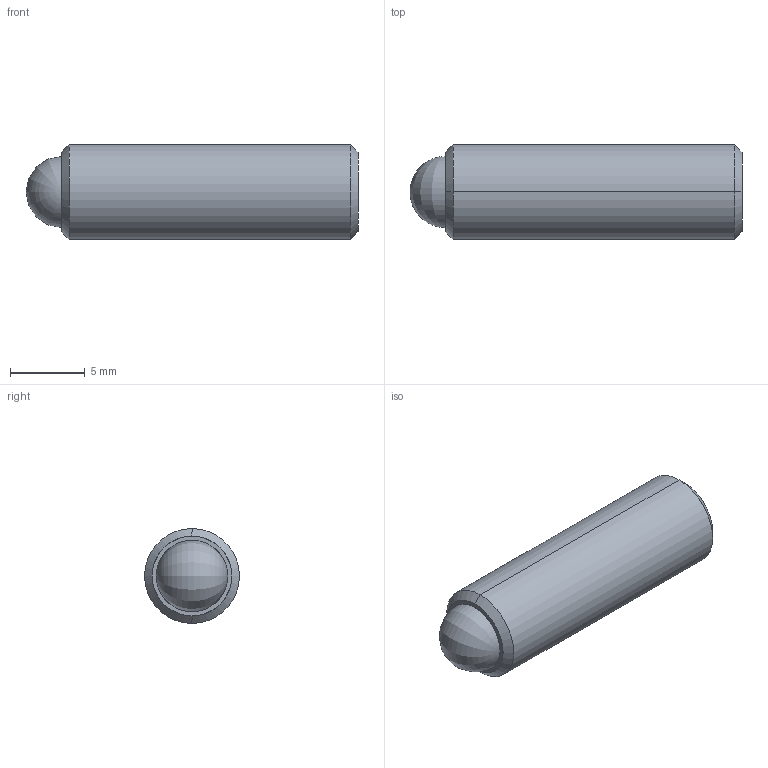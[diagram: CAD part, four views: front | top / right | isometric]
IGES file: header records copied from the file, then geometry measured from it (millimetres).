
Start section: SolidWorks IGES file using analytic representation for surfaces
Global section: file name: C:\Users\workpc\Desktop\KMA Solidworks\TS250-80 Series\TS250-80 SLDW\TS250-80-875-AA.IGS; native system: SolidWorks 2013; preprocessor: SolidWorks 2013; author: workpc; date: 130211.162928; units: inch
Bounding box: 22.22 x 6.35 x 6.35 mm (x, y, z)
Surface area: 563.3 mm2 (no closed solid volume)
Topology: 0 solids, 0 shells, 20 faces, 204 edges, 200 vertices
Faces by surface type: revolution 10, bspline 10
